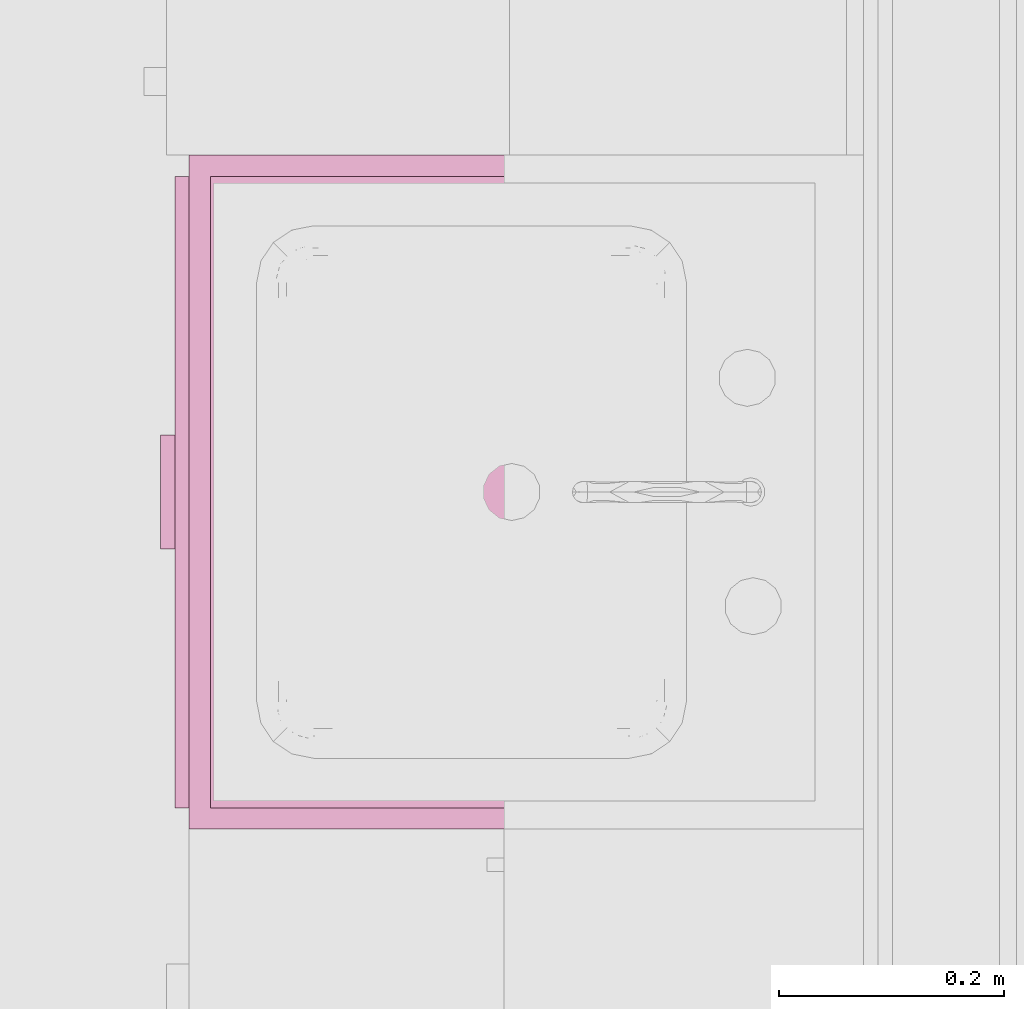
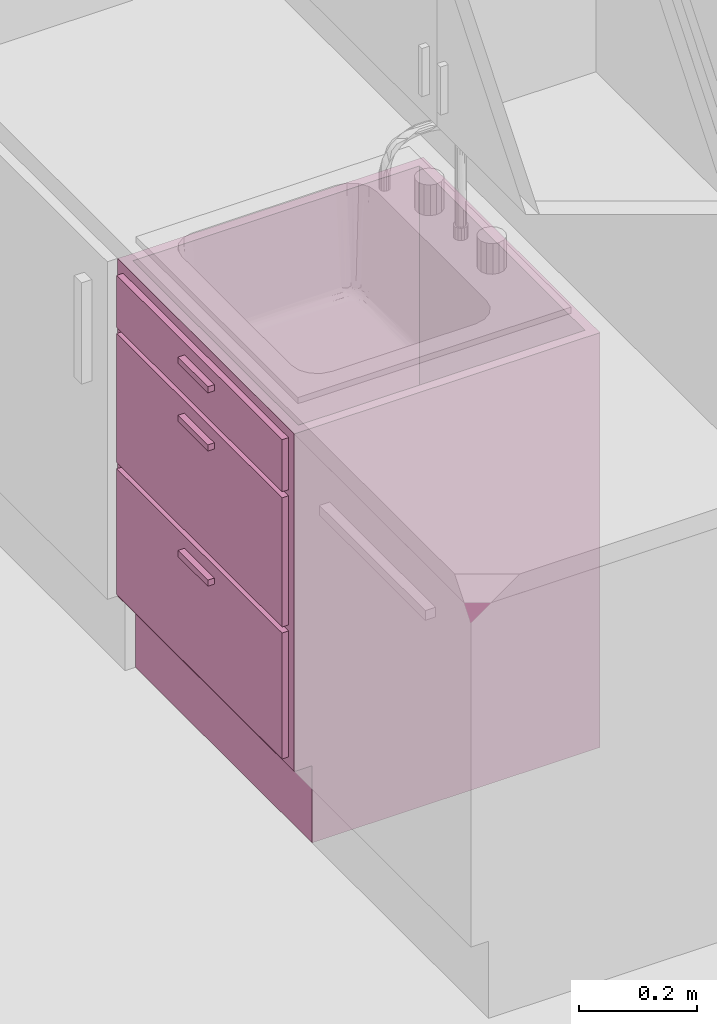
# One storey, part 10 of 12: 1 furniture element.
"""IFC4 building model written with IfcOpenShell, lengths in millimetres."""

from ifc_helpers import new_model, entity, si_unit, converted_unit, direction, frame, origin, place, context, subcontext, project, spatial, polygons, source, transform, mapped, material, constituent, constituent_set, type_object, type_shapes, element, save


model = new_model("IFC4")

# Units and contexts
model_context = context("Model", 3, precision=0.01, world=origin(), true_north=direction((0.0, 1.0)))
body_context = subcontext(model_context, "Body", "Model", "MODEL_VIEW")
ifc_project = project(units=[si_unit("LENGTHUNIT", "METRE", prefix="MILLI"), si_unit("AREAUNIT", "SQUARE_METRE"), si_unit("VOLUMEUNIT", "CUBIC_METRE"), converted_unit("PLANEANGLEUNIT", "DEGREE", entity("IfcPlaneAngleMeasure", 0.017453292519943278), si_unit("PLANEANGLEUNIT", "RADIAN"), dimensions=[0, 0, 0, 0, 0, 0, 0])], contexts=[model_context])

# Site, building, storey, space
site_placement = place(None, origin())
site = spatial("IfcSite", under=ifc_project, at=site_placement, Name="Tomtens navn", CompositionType="ELEMENT")
building_placement = place(site_placement, origin())
building = spatial("IfcBuilding", under=site, at=building_placement, Name="Byggets navn", CompositionType="ELEMENT")
storey_placement = place(building_placement, frame((0.0, 0.0, 3500.0)))
storey = spatial("IfcBuildingStorey", under=building, at=storey_placement, Name="Level 02", CompositionType="ELEMENT", Elevation=3499.999999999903)
space_placement = place(storey_placement, origin())
space = spatial("IfcSpace", under=storey, at=space_placement, Name="205", CompositionType="ELEMENT", PredefinedType="NOTDEFINED")

# Furniture
ifc_material_1 = material(Name="Cabinets", Category="Unassigned")
ifc_constituent_1 = constituent(ifc_material_1, Name="Cabinets", Category="Unassigned", fraction=1.0)
ifc_material_2 = material(Name="<Unnamed>")
ifc_constituent_2 = constituent(ifc_material_2, Name="<Unnamed>", fraction=0.0)
ifc_constituent_set_1 = constituent_set(constituents=[ifc_constituent_1, ifc_constituent_2])
ifc_constituent_3 = constituent(ifc_material_1, Name="Cabinet", Category="Unassigned", fraction=1.0)
ifc_constituent_4 = constituent(ifc_material_2, Name="<Unnamed>", fraction=0.0)
ifc_constituent_set_2 = constituent_set(constituents=[ifc_constituent_3, ifc_constituent_4])
furniture_type = type_object("IfcFurnitureType", Name="Benkeskap-3 skuff:600", AssemblyPlace="NOTDEFINED", PredefinedType="NOTDEFINED", material=ifc_constituent_set_2)
shared_shape = source(origin(), body_context, "Body", "Tessellation", [
    polygons([(318.7377049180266, 2.187594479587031e-14, 160.00000000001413), (-281.26229508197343, 0.0, 160.00000000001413), (-281.26229508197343, -564.9999999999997, 160.00000000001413), (318.73770491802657, -564.9999999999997, 160.00000000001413), (318.7377049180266, 2.187594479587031e-14, 0.0), (318.73770491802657, -564.9999999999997, 0.0), (-281.26229508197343, -564.9999999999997, 0.0), (-281.26229508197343, 0.0, 0.0)], [[[1, 2, 3, 4]], [[5, 6, 7, 8]], [[2, 1, 5, 8]], [[3, 2, 8, 7]], [[4, 3, 7, 6]], [[1, 4, 6, 5]]], closed=True),
    polygons([(299.68770491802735, -580.9500000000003, 860.0000000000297), (299.6877049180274, -580.9500000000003, 159.99999999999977), (-262.2122950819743, -580.9500000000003, 159.99999999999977), (-262.2122950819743, -580.9500000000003, 860.0000000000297), (318.7377049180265, -599.9999999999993, 860.0000000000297), (-281.26229508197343, -599.9999999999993, 860.0000000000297), (318.7377049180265, -599.9999999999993, 159.99999999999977), (-281.26229508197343, -599.9999999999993, 159.99999999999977), (-262.2122950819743, -19.049999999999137, 159.99999999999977), (-262.2122950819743, -19.049999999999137, 860.0000000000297), (-281.26229508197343, -1.282100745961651e-16, 860.0000000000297), (-281.26229508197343, -1.282100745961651e-16, 159.99999999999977), (299.6877049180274, -19.049999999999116, 159.99999999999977), (299.6877049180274, -19.049999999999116, 860.0000000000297), (318.73770491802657, 4.178665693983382e-14, 860.0000000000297), (318.73770491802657, 4.1530236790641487e-14, 159.99999999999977)], [[[1, 2, 3, 4]], [[5, 1, 4, 6]], [[7, 5, 6, 8]], [[2, 7, 8, 3]], [[4, 3, 9, 10]], [[6, 4, 10, 11]], [[8, 6, 11, 12]], [[3, 8, 12, 9]], [[10, 9, 13, 14]], [[11, 10, 14, 15]], [[12, 11, 15, 16]], [[9, 12, 16, 13]], [[14, 13, 2, 1]], [[15, 14, 1, 5]], [[16, 15, 5, 7]], [[13, 16, 7, 2]]], closed=True),
    polygons([(299.6877049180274, -19.04999999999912, 179.04999999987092), (-262.2122950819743, -19.04999999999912, 179.04999999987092), (-262.2122950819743, -580.9500000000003, 179.04999999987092), (299.6877049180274, -580.9500000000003, 179.04999999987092), (299.6877049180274, -19.04999999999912, 160.00000000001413), (299.6877049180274, -580.9500000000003, 160.00000000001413), (-262.2122950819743, -580.9500000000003, 160.00000000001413), (-262.2122950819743, -19.04999999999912, 160.00000000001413)], [[[1, 2, 3, 4]], [[5, 6, 7, 8]], [[2, 1, 5, 8]], [[3, 2, 8, 7]], [[4, 3, 7, 6]], [[1, 4, 6, 5]]], closed=True),
    polygons([(299.6877049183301, -612.7000000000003, 840.9500000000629), (-262.21229508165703, -612.6999999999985, 840.9500000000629), (-262.21229508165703, -612.6999999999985, 733.0000000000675), (299.6877049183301, -612.7000000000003, 733.0000000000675), (299.6877049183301, -600.0000000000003, 840.9500000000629), (299.6877049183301, -600.0000000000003, 733.0000000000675), (-262.212295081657, -599.9999999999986, 733.0000000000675), (-262.212295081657, -599.9999999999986, 840.9500000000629)], [[[1, 2, 3, 4]], [[5, 6, 7, 8]], [[2, 1, 5, 8]], [[3, 2, 8, 7]], [[4, 3, 7, 6]], [[1, 4, 6, 5]]], closed=True),
    polygons([(-262.2122950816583, -612.6999999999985, 720.3000000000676), (299.68770491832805, -612.7000000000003, 720.3000000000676), (299.68770491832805, -600.0000000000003, 720.3000000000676), (-262.2122950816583, -599.9999999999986, 720.3000000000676), (-262.2122950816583, -612.6999999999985, 452.7000000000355), (-262.2122950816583, -599.9999999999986, 452.7000000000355), (299.68770491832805, -612.7000000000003, 452.7000000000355), (299.68770491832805, -600.0000000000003, 452.7000000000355)], [[[1, 2, 3, 4]], [[5, 1, 4, 6]], [[7, 5, 6, 8]], [[2, 7, 8, 3]], [[3, 8, 6, 4]], [[2, 1, 5, 7]]], closed=True),
    polygons([(-262.21229508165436, -612.6999999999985, 440.0000000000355), (299.6877049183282, -612.7000000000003, 440.0000000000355), (299.6877049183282, -600.0000000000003, 440.0000000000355), (-262.2122950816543, -599.9999999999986, 440.0000000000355), (-262.21229508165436, -612.6999999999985, 179.0499999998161), (-262.2122950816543, -599.9999999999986, 179.0499999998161), (299.6877049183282, -612.7000000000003, 179.0499999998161), (299.6877049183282, -600.0000000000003, 179.0499999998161)], [[[1, 2, 3, 4]], [[5, 1, 4, 6]], [[7, 5, 6, 8]], [[2, 7, 8, 3]], [[3, 8, 6, 4]], [[2, 1, 5, 7]]], closed=True),
    polygons([(69.5377049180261, -625.3999999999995, 815.5500000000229), (-32.06229508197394, -625.3999999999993, 815.5500000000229), (-32.06229508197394, -625.3999999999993, 802.850000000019), (69.5377049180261, -625.3999999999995, 802.850000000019), (69.53770491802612, -612.6999999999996, 815.5500000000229), (69.53770491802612, -612.6999999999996, 802.850000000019), (-32.0622950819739, -612.6999999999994, 802.850000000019), (-32.0622950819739, -612.6999999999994, 815.5500000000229)], [[[1, 2, 3, 4]], [[5, 6, 7, 8]], [[2, 1, 5, 8]], [[3, 2, 8, 7]], [[4, 3, 7, 6]], [[1, 4, 6, 5]]], closed=True),
    polygons([(-32.062295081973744, -625.3999999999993, 694.9000000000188), (69.53770491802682, -625.3999999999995, 694.9000000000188), (69.53770491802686, -612.6999999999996, 694.9000000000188), (-32.06229508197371, -612.6999999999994, 694.9000000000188), (-32.062295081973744, -625.3999999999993, 682.2000000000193), (-32.06229508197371, -612.6999999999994, 682.2000000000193), (69.53770491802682, -625.3999999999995, 682.2000000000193), (69.53770491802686, -612.6999999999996, 682.2000000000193)], [[[1, 2, 3, 4]], [[5, 1, 4, 6]], [[7, 5, 6, 8]], [[2, 7, 8, 3]], [[3, 8, 6, 4]], [[2, 1, 5, 7]]], closed=True),
    polygons([(-32.06229508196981, -625.3999999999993, 414.6000000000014), (69.53770491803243, -625.3999999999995, 414.6000000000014), (69.53770491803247, -612.6999999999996, 414.6000000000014), (-32.062295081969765, -612.6999999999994, 414.6000000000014), (-32.0622950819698, -625.3999999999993, 401.9000000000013), (-32.06229508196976, -612.6999999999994, 401.9000000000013), (69.53770491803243, -625.3999999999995, 401.9000000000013), (69.53770491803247, -612.6999999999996, 401.9000000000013)], [[[1, 2, 3, 4]], [[5, 1, 4, 6]], [[7, 5, 6, 8]], [[2, 7, 8, 3]], [[3, 8, 6, 4]], [[2, 1, 5, 7]]], closed=True),
])
type_shapes(furniture_type, [shared_shape])
furniture_placement = place(space_placement, frame((63496.35352810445, 13126.20416184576, 0.0), z_axis=(0.0, 0.0, 1.0), x_axis=(0.0, -1.0, 0.0)))
element("IfcFurniture", 1, at=furniture_placement, inside=space, type_object=furniture_type, material=ifc_constituent_set_1, Name="Benkeskap-3 skuff:600", PredefinedType="NOTDEFINED", context=body_context, shape_type="MappedRepresentation", body=[
    mapped(shared_shape, transform((0.0, 0.0, 0.0), scale=1.0)),
])

save(model, "model.ifc")
